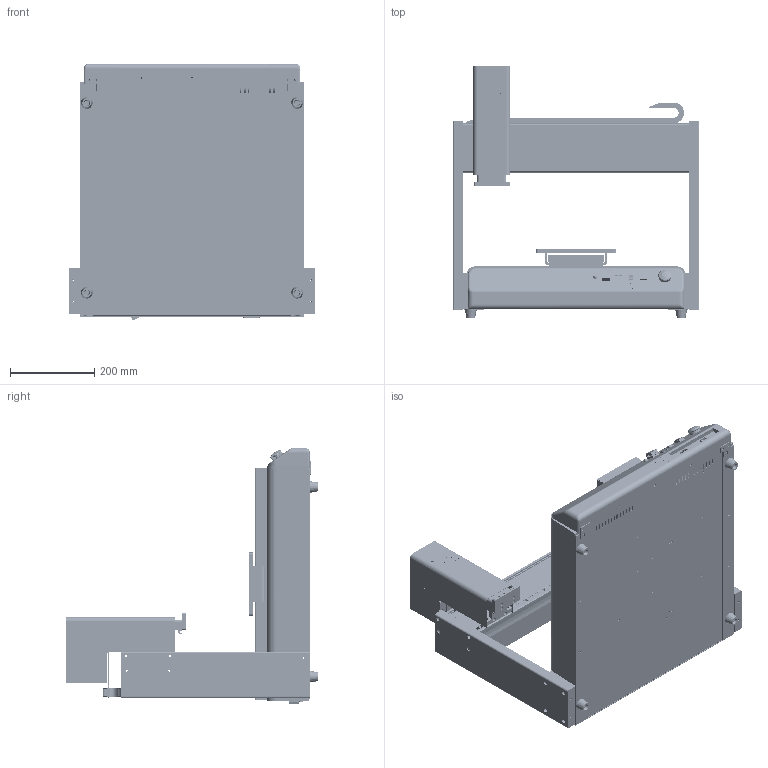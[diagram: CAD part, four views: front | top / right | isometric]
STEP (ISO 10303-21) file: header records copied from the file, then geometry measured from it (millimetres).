
FILE_DESCRIPTION(/* description */ (''),/* implementation_level */ '2;1');
FILE_NAME(/* name */ 'A:\1PD&D\Henkel Robots Project\2104795 400D Benchtop Robot\2104795 400D Benchtop Robot 3D\2104795 400D Benchtop Robot.stp',/* time_stamp */ '2016-09-13T14:56:43-04:00',/* author */ ('Gary'),/* organization */ (''),/* preprocessor_version */ 'ST-DEVELOPER v15.6',/* originating_system */ 'Autodesk Inventor 2015',/* authorisation */ '');
FILE_SCHEMA (('AUTOMOTIVE_DESIGN { 1 0 10303 214 3 1 1 }'));
Products named in the file (6): 8906113 EQ RB40 400D Benchtop Robot Sub-Assembly; 988341 Rev C Spare Parts and Service Label; 8906115 EQ RB40 400D Benchtop Robot Item & Serial Number Label; 2104795 Purge Button With Guard; 8904215 Warning Label Do Not Plug - Unplug With Power On; 2104795 400D Benchtop Robot
Bounding box: 585 x 596.5 x 609.26 mm (x, y, z)
Volume: 10847924.8 mm3; surface area: 4332239.9 mm2
Topology: 104 solids, 107 shells, 12739 faces, 34256 edges, 22848 vertices
Faces by surface type: plane 7348, bspline 3712, cylinder 1645, cone 30, torus 3, sphere 1
Full cylindrical faces by diameter (mm): 0.567 x18, 1 x21, 1.23 x15, 1.5 x2, 2 x6, 2.6 x39, 3 x8, 3.3 x133, 3.5 x30, 4 x30, 4.2 x47, 4.3 x4, 4.5 x58, 5 x13, 5.2 x13, 5.5 x44, 6 x28, 6.665 x1, 7.5 x2, 7.6 x4, 8 x46, 8.4 x2, 8.5 x2, 9 x3, 9.254 x1, 9.5 x40, 9.6 x1, 10 x2, 11 x3, 11.5 x1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
Entity records: 430265 total; most frequent: CARTESIAN_POINT 125041, ORIENTED_EDGE 66942, DIRECTION 47451, EDGE_CURVE 33470, VERTEX_POINT 22802, LINE 22501, VECTOR 22501, EDGE_LOOP 15614
